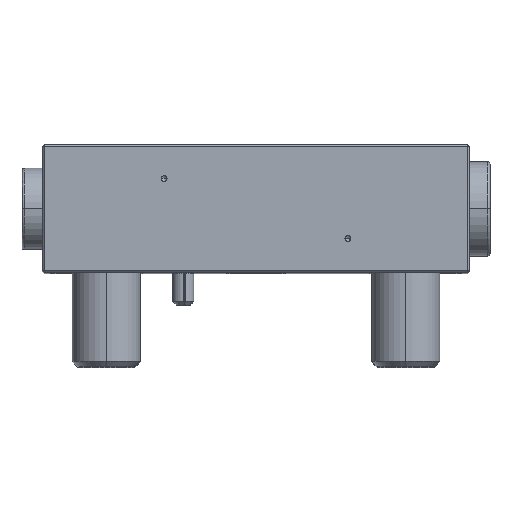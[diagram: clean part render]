
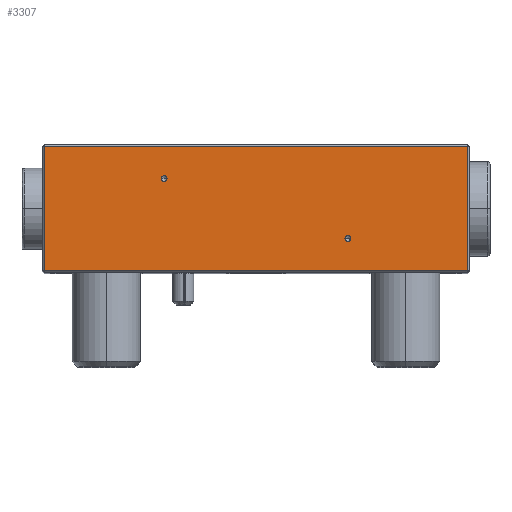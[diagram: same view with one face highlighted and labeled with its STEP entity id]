
A CAD part, top view. The second image highlights one B-rep face of the part: STEP entity #3307.
In plain terms, the highlighted planar face has unit normal (0, 0, 1).
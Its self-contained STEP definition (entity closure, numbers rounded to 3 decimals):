
#1 = DIRECTION ( 'NONE',  ( 0., 0., 1. ) ) ;
#231 = CIRCLE ( 'NONE', #4510, 0.7 ) ;
#270 = CARTESIAN_POINT ( 'NONE',  ( -84.533, 15.159, 84.374 ) ) ;
#375 = CIRCLE ( 'NONE', #14210, 0.7 ) ;
#709 = DIRECTION ( 'NONE',  ( 1., 0., 0. ) ) ;
#969 = CARTESIAN_POINT ( 'NONE',  ( -13.533, -6.341, 84.374 ) ) ;
#1034 = VECTOR ( 'NONE', #6819, 1000. ) ;
#1502 = AXIS2_PLACEMENT_3D ( 'NONE', #15095, #15046, #15010 ) ;
#1651 = VERTEX_POINT ( 'NONE', #5595 ) ;
#1829 = VERTEX_POINT ( 'NONE', #10939 ) ;
#2083 = CARTESIAN_POINT ( 'NONE',  ( -56.533, 7.659, 84.374 ) ) ;
#2245 = DIRECTION ( 'NONE',  ( 1., 0., 0. ) ) ;
#2250 = DIRECTION ( 'NONE',  ( 0., 0., 1. ) ) ;
#2308 = ORIENTED_EDGE ( 'NONE', *, *, #12454, .F. ) ;
#2394 = DIRECTION ( 'NONE',  ( 1., 0., 0. ) ) ;
#3077 = CIRCLE ( 'NONE', #15099, 0.7 ) ;
#3258 = ORIENTED_EDGE ( 'NONE', *, *, #12621, .T. ) ;
#3307 = ADVANCED_FACE ( 'NONE', ( #7421, #13928, #4069 ), #15777, .F. ) ;
#3357 = DIRECTION ( 'NONE',  ( 1., 0., 0. ) ) ;
#3450 = CARTESIAN_POINT ( 'NONE',  ( -12.833, -6.341, 84.374 ) ) ;
#3468 = CARTESIAN_POINT ( 'NONE',  ( -13.533, -6.341, 84.374 ) ) ;
#3594 = VERTEX_POINT ( 'NONE', #9342 ) ;
#4069 = FACE_BOUND ( 'NONE', #10971, .T. ) ;
#4383 = CARTESIAN_POINT ( 'NONE',  ( -85.033, 15.159, 84.374 ) ) ;
#4504 = LINE ( 'NONE', #8065, #1034 ) ;
#4510 = AXIS2_PLACEMENT_3D ( 'NONE', #8250, #15466, #6987 ) ;
#5052 = CARTESIAN_POINT ( 'NONE',  ( -84.533, 15.659, 84.374 ) ) ;
#5595 = CARTESIAN_POINT ( 'NONE',  ( -14.233, -6.341, 84.374 ) ) ;
#5812 = VERTEX_POINT ( 'NONE', #9346 ) ;
#6362 = LINE ( 'NONE', #10789, #8983 ) ;
#6482 = LINE ( 'NONE', #4383, #10003 ) ;
#6585 = EDGE_CURVE ( 'NONE', #3594, #1829, #10615, .T. ) ;
#6649 = ORIENTED_EDGE ( 'NONE', *, *, #12884, .T. ) ;
#6819 = DIRECTION ( 'NONE',  ( 0., 1., 0. ) ) ;
#6987 = DIRECTION ( 'NONE',  ( 1., 0., 0. ) ) ;
#7418 = LINE ( 'NONE', #5052, #7466 ) ;
#7421 = FACE_OUTER_BOUND ( 'NONE', #14271, .T. ) ;
#7466 = VECTOR ( 'NONE', #8683, 1000. ) ;
#8065 = CARTESIAN_POINT ( 'NONE',  ( 14.467, 15.659, 84.374 ) ) ;
#8250 = CARTESIAN_POINT ( 'NONE',  ( -56.533, 7.659, 84.374 ) ) ;
#8359 = AXIS2_PLACEMENT_3D ( 'NONE', #2083, #2250, #2394 ) ;
#8683 = DIRECTION ( 'NONE',  ( 0., -1., 0. ) ) ;
#8906 = EDGE_CURVE ( 'NONE', #1651, #11724, #375, .T. ) ;
#8983 = VECTOR ( 'NONE', #3357, 1000. ) ;
#9106 = ORIENTED_EDGE ( 'NONE', *, *, #12927, .T. ) ;
#9271 = ORIENTED_EDGE ( 'NONE', *, *, #8906, .F. ) ;
#9342 = CARTESIAN_POINT ( 'NONE',  ( -57.233, 7.659, 84.374 ) ) ;
#9346 = CARTESIAN_POINT ( 'NONE',  ( 14.467, -13.841, 84.374 ) ) ;
#10003 = VECTOR ( 'NONE', #13053, 1000. ) ;
#10347 = EDGE_LOOP ( 'NONE', ( #2308, #12944 ) ) ;
#10493 = CARTESIAN_POINT ( 'NONE',  ( 14.467, 15.159, 84.374 ) ) ;
#10615 = CIRCLE ( 'NONE', #8359, 0.7 ) ;
#10789 = CARTESIAN_POINT ( 'NONE',  ( 14.967, -13.841, 84.374 ) ) ;
#10939 = CARTESIAN_POINT ( 'NONE',  ( -55.833, 7.659, 84.374 ) ) ;
#10971 = EDGE_LOOP ( 'NONE', ( #13279, #9271 ) ) ;
#11010 = DIRECTION ( 'NONE',  ( 0., 0., 1. ) ) ;
#11724 = VERTEX_POINT ( 'NONE', #3450 ) ;
#11866 = ORIENTED_EDGE ( 'NONE', *, *, #14194, .T. ) ;
#12124 = EDGE_CURVE ( 'NONE', #11724, #1651, #3077, .T. ) ;
#12366 = CARTESIAN_POINT ( 'NONE',  ( -84.533, -13.841, 84.374 ) ) ;
#12372 = VERTEX_POINT ( 'NONE', #12366 ) ;
#12454 = EDGE_CURVE ( 'NONE', #1829, #3594, #231, .T. ) ;
#12621 = EDGE_CURVE ( 'NONE', #5812, #12640, #4504, .T. ) ;
#12640 = VERTEX_POINT ( 'NONE', #10493 ) ;
#12884 = EDGE_CURVE ( 'NONE', #15154, #12372, #7418, .T. ) ;
#12927 = EDGE_CURVE ( 'NONE', #12640, #15154, #6482, .T. ) ;
#12944 = ORIENTED_EDGE ( 'NONE', *, *, #6585, .F. ) ;
#13053 = DIRECTION ( 'NONE',  ( -1., 0., 0. ) ) ;
#13279 = ORIENTED_EDGE ( 'NONE', *, *, #12124, .F. ) ;
#13928 = FACE_BOUND ( 'NONE', #10347, .T. ) ;
#14194 = EDGE_CURVE ( 'NONE', #12372, #5812, #6362, .T. ) ;
#14210 = AXIS2_PLACEMENT_3D ( 'NONE', #969, #1, #709 ) ;
#14271 = EDGE_LOOP ( 'NONE', ( #6649, #11866, #3258, #9106 ) ) ;
#15010 = DIRECTION ( 'NONE',  ( -1., 0., 0. ) ) ;
#15046 = DIRECTION ( 'NONE',  ( 0., 0., -1. ) ) ;
#15095 = CARTESIAN_POINT ( 'NONE',  ( 14.967, 15.659, 84.374 ) ) ;
#15099 = AXIS2_PLACEMENT_3D ( 'NONE', #3468, #11010, #2245 ) ;
#15154 = VERTEX_POINT ( 'NONE', #270 ) ;
#15466 = DIRECTION ( 'NONE',  ( 0., 0., 1. ) ) ;
#15777 = PLANE ( 'NONE',  #1502 ) ;
